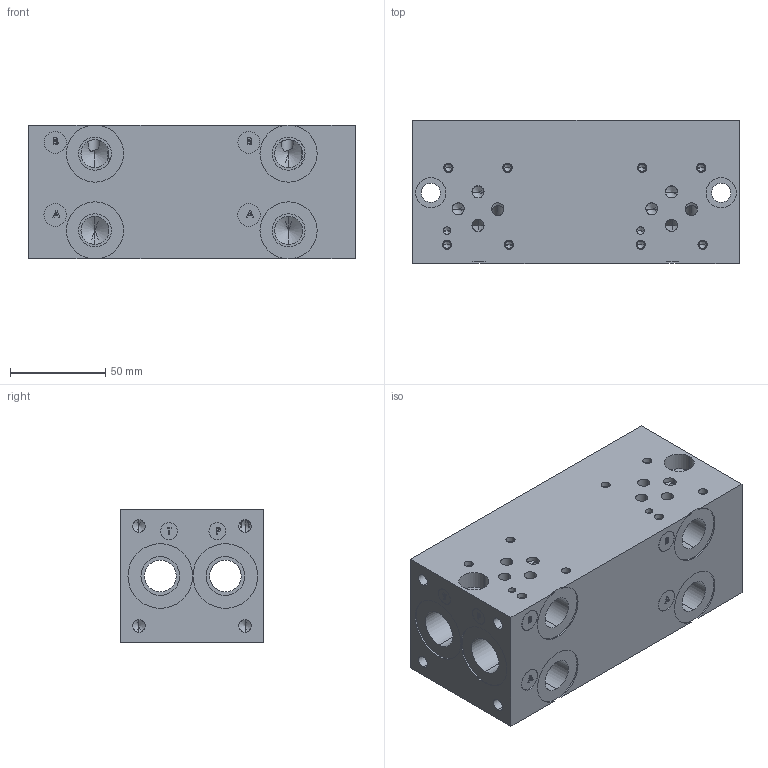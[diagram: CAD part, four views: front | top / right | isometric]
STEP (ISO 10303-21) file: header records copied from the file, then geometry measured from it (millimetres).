
FILE_DESCRIPTION (( 'STEP AP203' ), '1' );
FILE_NAME ('BM-ASP03S4-02-1_Z.STEP', '2015-01-06T15:42:11', ( '' ), ( '' ), 'SwSTEP 2.0', 'SolidWorks 2014', '' );
FILE_SCHEMA (( 'CONFIG_CONTROL_DESIGN' ));
Length unit declared in the file: inch
Products named in the file (1): BM-ASP03S4-02-1_Z
Bounding box: 171.45 x 74.93 x 69.85 mm (x, y, z)
Volume: 764257 mm3; surface area: 97255.3 mm2
Topology: 1 solids, 1 shells, 358 faces, 914 edges, 564 vertices
Faces by surface type: cylinder 142, plane 128, cone 58, bspline 30
Entity records: 12879 total; most frequent: CARTESIAN_POINT 4443, ORIENTED_EDGE 1724, DIRECTION 1672, EDGE_CURVE 862, AXIS2_PLACEMENT_3D 605, VERTEX_POINT 564, LINE 462, VECTOR 462
